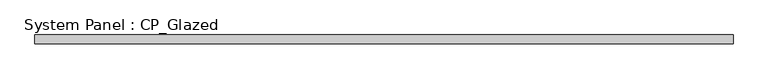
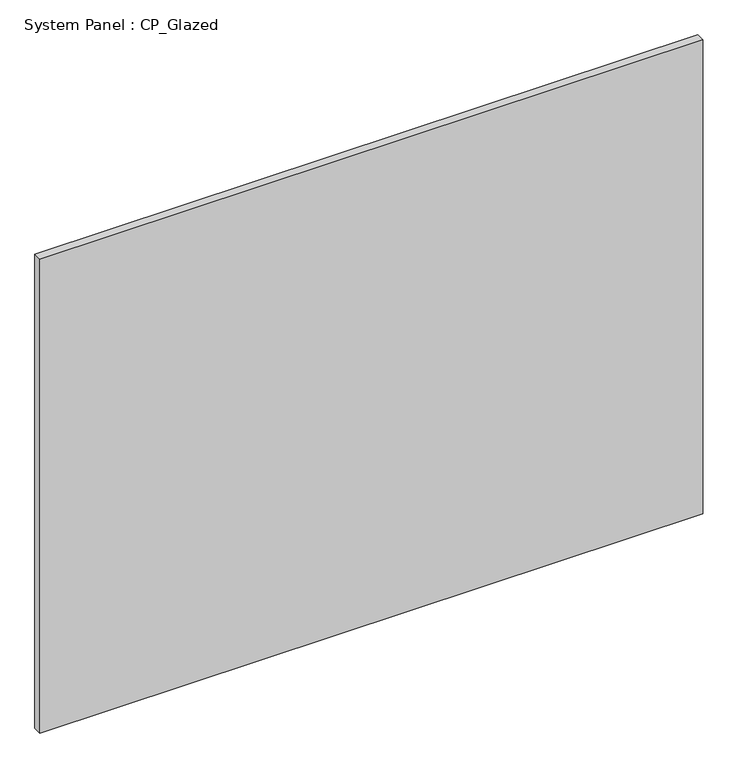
"""IFC4 building model written with IfcOpenShell, lengths in millimetres: plate geometry, System Panel : CP_Glazed."""

from ifc_helpers import new_model, si_unit, origin, origin_with_axes, place, context, project, spatial, polyline, outline, extrude, source, transform, mapped, element, save


def system_panel_cp_glazed_0418d827(model_context):
    return source(origin(), model_context, "Body", "SweptSolid", [
        extrude(outline(polyline([(979.4875, 19.05), (-979.4875, 19.05), (-979.4875, 44.45), (979.4875, 44.45), (979.4875, 19.05)])), origin_with_axes(), (0.0, 0.0, 1.0), 1479.55),
    ])


if __name__ == "__main__":
    model = new_model("IFC4")
    model_context = context("Model", 3, world=origin())
    ifc_project = project(units=[si_unit("LENGTHUNIT", "METRE", prefix="MILLI")], contexts=[model_context])
    site = spatial("IfcSite", under=ifc_project)
    building = spatial("IfcBuilding", under=site)
    placement = place(None, origin())
    system_panel_cp_glazed_shape = system_panel_cp_glazed_0418d827(model_context)
    element("IfcPlate", 1, ObjectType="System Panel : CP_Glazed", at=placement, inside=building, context=model_context, shape_type="MappedRepresentation", body=[
        mapped(system_panel_cp_glazed_shape, transform((0.0, 0.0, 0.0), x_axis=(1.0, 0.0, 0.0), y_axis=(0.0, 1.0, 0.0), z_axis=(0.0, 0.0, 1.0))),
    ])
    save(model, "model.ifc")
